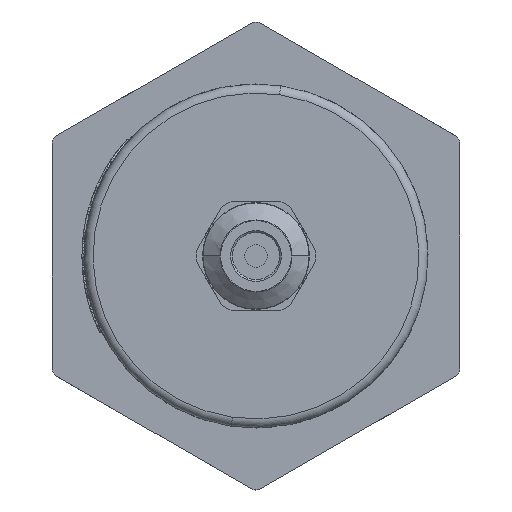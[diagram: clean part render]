
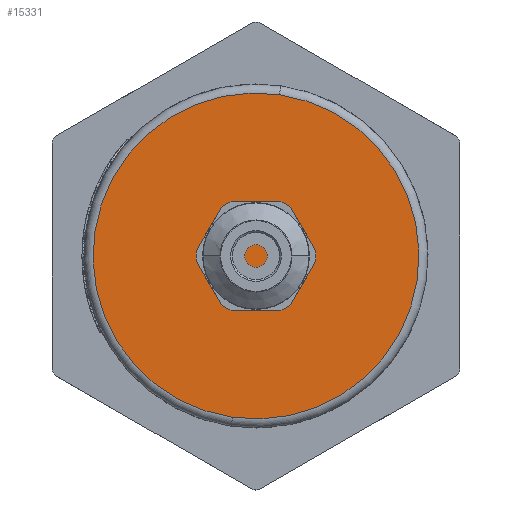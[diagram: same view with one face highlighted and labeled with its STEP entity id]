
A CAD part, left-side view. The second image highlights one B-rep face of the part: STEP entity #15331.
In plain terms, the highlighted planar face has unit normal (-1, 0, 0) as drawn and (0, 0, -1) by its records, which use the part's own axes.
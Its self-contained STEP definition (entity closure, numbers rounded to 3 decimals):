
#6697=CARTESIAN_POINT('',(0.,0.,-19.));
#6698=DIRECTION('',(0.,0.,-1.));
#6699=DIRECTION('',(1.,0.,0.));
#6700=AXIS2_PLACEMENT_3D('',#6697,#6698,#6699);
#6702=CARTESIAN_POINT('',(0.,0.,-19.));
#6703=DIRECTION('',(0.,0.,-1.));
#6704=DIRECTION('',(-1.,0.,0.));
#6705=AXIS2_PLACEMENT_3D('',#6702,#6703,#6704);
#9755=CARTESIAN_POINT('',(18.,0.,-19.));
#9756=CARTESIAN_POINT('',(-18.,0.,-19.));
#9757=VERTEX_POINT('',#9755);
#9758=VERTEX_POINT('',#9756);
#15321=CARTESIAN_POINT('',(0.,0.,-19.));
#15322=DIRECTION('',(0.,0.,1.));
#15323=DIRECTION('',(1.,0.,0.));
#15324=AXIS2_PLACEMENT_3D('',#15321,#15322,#15323);
#15325=PLANE('',#15324);
#15326=ORIENTED_EDGE('',*,*,#15311,.F.);
#15328=ORIENTED_EDGE('',*,*,#15327,.F.);
#15329=EDGE_LOOP('',(#15326,#15328));
#15330=FACE_OUTER_BOUND('',#15329,.F.);
#15331=ADVANCED_FACE('',(#15330),#15325,.F.);
#6701=CIRCLE('',#6700,18.);
#6706=CIRCLE('',#6705,18.);
#15311=EDGE_CURVE('',#9757,#9758,#6701,.T.);
#15327=EDGE_CURVE('',#9758,#9757,#6706,.T.);
